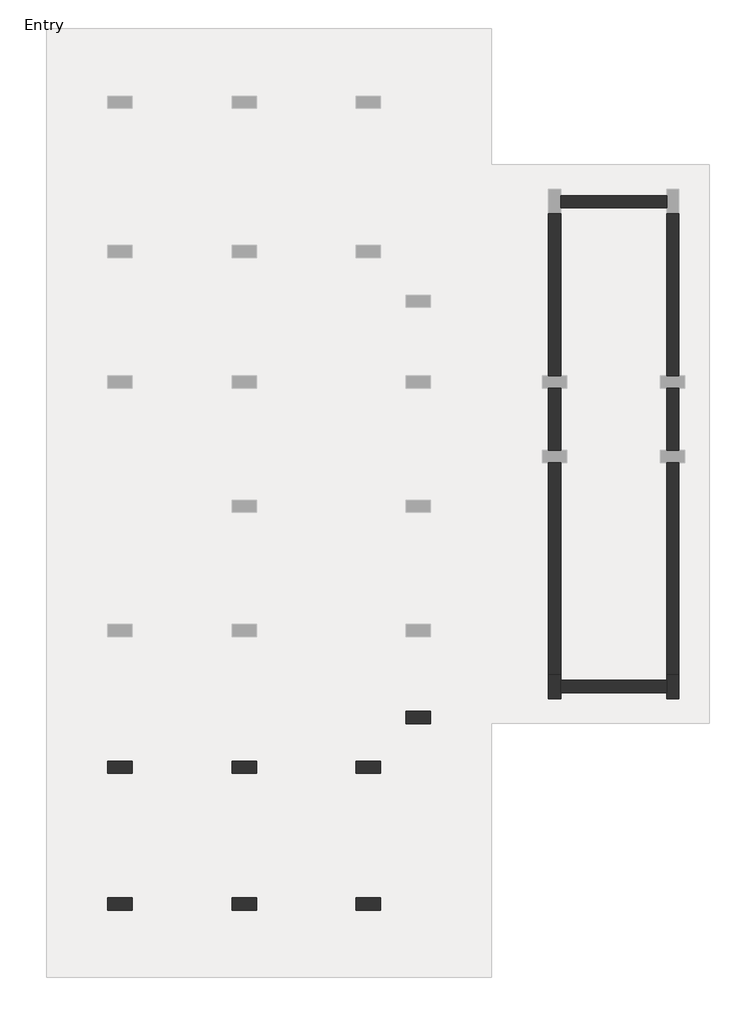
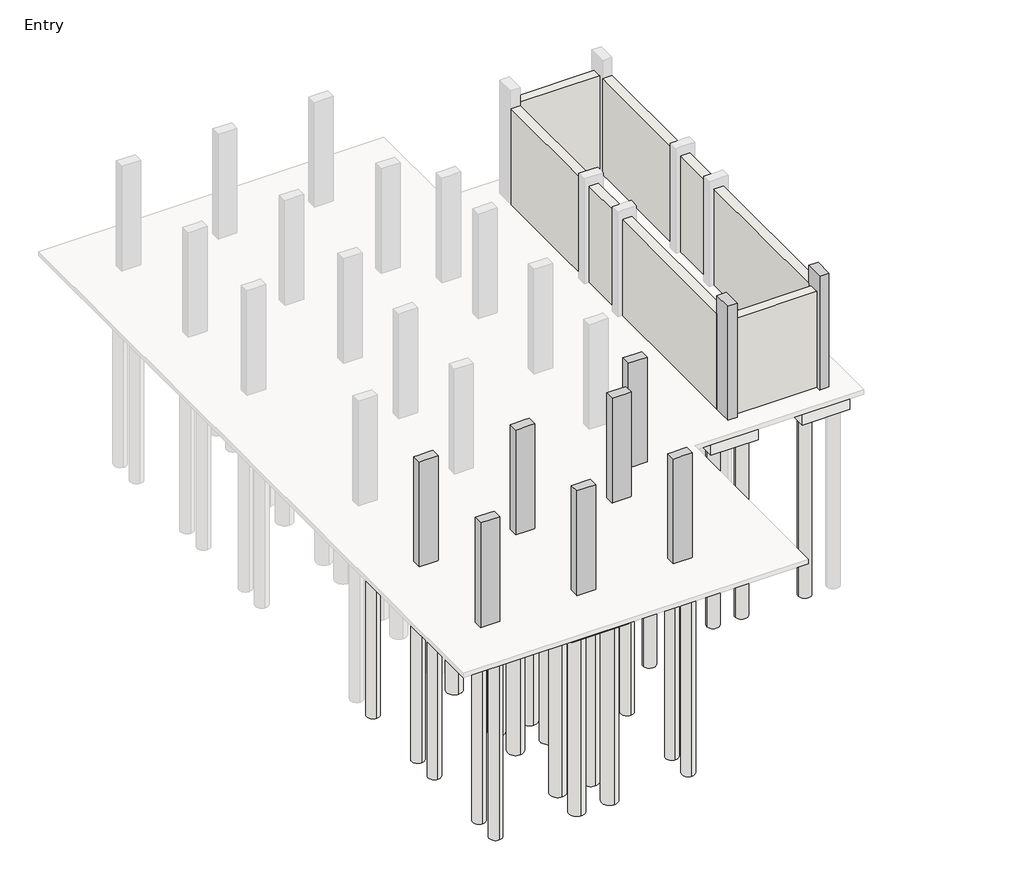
# One storey, part 1 of 3: 34 slabs, 9 columns, 8 walls, 1 footing.
"""IFC4 building model written with IfcOpenShell, lengths in millimetres."""

from ifc_helpers import new_model, si_unit, point, frame, frame_2d, origin, origin_with_axes, place, context, project, spatial, polyline, circle_curve, trimmed, segment, composite_curve, outline, extrude, faceted_brep, element, save

model = new_model("IFC4")

# Units and contexts
model_context = context("Model", 3, world=origin())
ifc_project = project(units=[si_unit("LENGTHUNIT", "METRE", prefix="MILLI")], contexts=[model_context])

# Site, building, storey
site = spatial("IfcSite", under=ifc_project)
building = spatial("IfcBuilding", under=site)
storey = spatial("IfcBuildingStorey", under=building, Name="Entry", Elevation=0.0)

# Columns
placement = place(None, origin())
element("IfcColumn", 1, ObjectType="M_Concrete-Rectangular-Column : 300 x 600mm", at=placement, inside=storey, context=model_context, shape_type="Brep", body=[
    faceted_brep([(-6997.5526929, -1780.40431, 0.0), (-6397.5526929, -1780.40431, 0.0), (-6397.5526929, -2080.40431, 0.0), (-6997.5526929, -2080.40431, 0.0), (-6997.5526929, -1780.40431, 3505.2), (-6847.5526929, -1780.40431, 3505.2), (-6547.5526929, -1780.40431, 3505.2), (-6397.5526929, -1780.40431, 3505.2), (-6997.5526929, -1780.40431, 2910.0), (-6397.5526929, -2080.40431, 3505.2), (-6697.5526929, -2080.40431, 3505.2), (-6997.5526929, -2080.40431, 3505.2), (-6997.5526929, -2080.40431, 2910.0)], [[[0, 1, 2, 3]], [[4, 5, 6, 7, 1, 0, 8]], [[7, 9, 2, 1]], [[9, 10, 11, 12, 3, 2]], [[11, 4, 8, 0, 3, 12]], [[4, 11, 10, 9, 7, 6, 5]]]),
])
element("IfcColumn", 2, ObjectType="M_Concrete-Rectangular-Column : 300 x 600mm", at=placement, inside=storey, context=model_context, shape_type="Brep", body=[
    faceted_brep([(-14312.7526929, -2999.60431, 0.0), (-13712.7526929, -2999.60431, 0.0), (-13712.7526929, -3299.60431, 0.0), (-14312.7526929, -3299.60431, 0.0), (-14312.7526929, -2999.60431, 3505.2), (-14162.7526929, -2999.60431, 3505.2), (-13862.7526929, -2999.60431, 3505.2), (-13712.7526929, -2999.60431, 3505.2), (-13712.7526929, -2999.60431, 2910.0), (-13712.7526929, -3299.60431, 3505.2), (-13712.7526929, -3299.60431, 2910.0), (-13862.7526929, -3299.60431, 3505.2), (-14162.7526929, -3299.60431, 3505.2), (-14312.7526929, -3299.60431, 3505.2)], [[[0, 1, 2, 3]], [[4, 5, 6, 7, 8, 1, 0]], [[7, 9, 10, 2, 1, 8]], [[9, 11, 12, 13, 3, 2, 10]], [[13, 4, 0, 3]], [[4, 13, 12, 11, 9, 7, 6, 5]]]),
])
element("IfcColumn", 3, ObjectType="M_Concrete-Rectangular-Column : 300 x 600mm", at=placement, inside=storey, context=model_context, shape_type="Brep", body=[
    faceted_brep([(-11264.7526929, -2999.60431, 0.0), (-10664.7526929, -2999.60431, 0.0), (-10664.7526929, -3299.60431, 0.0), (-11264.7526929, -3299.60431, 0.0), (-11264.7526929, -2999.60431, 3505.2), (-11114.7526929, -2999.60431, 3505.2), (-10814.7526929, -2999.60431, 3505.2), (-10664.7526929, -2999.60431, 3505.2), (-10664.7526929, -2999.60431, 2910.0), (-11264.7526929, -2999.60431, 2910.0), (-10664.7526929, -3299.60431, 3505.2), (-10664.7526929, -3299.60431, 2910.0), (-10814.7526929, -3299.60431, 3505.2), (-11114.7526929, -3299.60431, 3505.2), (-11264.7526929, -3299.60431, 3505.2), (-11264.7526929, -3299.60431, 2910.0)], [[[0, 1, 2, 3]], [[4, 5, 6, 7, 8, 1, 0, 9]], [[7, 10, 11, 2, 1, 8]], [[10, 12, 13, 14, 15, 3, 2, 11]], [[14, 4, 9, 0, 3, 15]], [[4, 14, 13, 12, 10, 7, 6, 5]]]),
])
element("IfcColumn", 4, ObjectType="M_Concrete-Rectangular-Column : 300 x 600mm", at=placement, inside=storey, context=model_context, shape_type="Brep", body=[
    faceted_brep([(-8216.7526929, -2999.60431, 0.0), (-7616.7526929, -2999.60431, 0.0), (-7616.7526929, -3299.60431, 0.0), (-8216.7526929, -3299.60431, 0.0), (-8216.7526929, -2999.60431, 3505.2), (-8066.7526929, -2999.60431, 3505.2), (-7766.7526929, -2999.60431, 3505.2), (-7616.7526929, -2999.60431, 3505.2), (-8216.7526929, -2999.60431, 2910.0), (-7616.7526929, -3299.60431, 3505.2), (-7766.7526929, -3299.60431, 3505.2), (-8066.7526929, -3299.60431, 3505.2), (-8216.7526929, -3299.60431, 3505.2), (-8216.7526929, -3299.60431, 2910.0)], [[[0, 1, 2, 3]], [[4, 5, 6, 7, 1, 0, 8]], [[7, 9, 2, 1]], [[9, 10, 11, 12, 13, 3, 2]], [[12, 4, 8, 0, 3, 13]], [[4, 12, 11, 10, 9, 7, 6, 5]]]),
])
element("IfcColumn", 5, ObjectType="M_Concrete-Rectangular-Column : 300 x 600mm", at=placement, inside=storey, context=model_context, shape_type="Brep", body=[
    faceted_brep([(-14312.7526929, -6352.40431, 0.0), (-13712.7526929, -6352.40431, 0.0), (-13712.7526929, -6652.40431, 0.0), (-14312.7526929, -6652.40431, 0.0), (-14312.7526929, -6352.40431, 3505.2), (-14162.7526929, -6352.40431, 3505.2), (-13862.7526929, -6352.40431, 3505.2), (-13712.7526929, -6352.40431, 3505.2), (-13712.7526929, -6352.40431, 2910.0), (-13712.7526929, -6652.40431, 3505.2), (-13712.7526929, -6652.40431, 2910.0), (-14012.7526929, -6652.40431, 3505.2), (-14312.7526929, -6652.40431, 3505.2)], [[[0, 1, 2, 3]], [[4, 5, 6, 7, 8, 1, 0]], [[7, 9, 10, 2, 1, 8]], [[9, 11, 12, 3, 2, 10]], [[12, 4, 0, 3]], [[4, 12, 11, 9, 7, 6, 5]]]),
])
element("IfcColumn", 6, ObjectType="M_Concrete-Rectangular-Column : 300 x 600mm", at=placement, inside=storey, context=model_context, shape_type="Brep", body=[
    faceted_brep([(-11264.7526929, -6352.40431, 0.0), (-10664.7526929, -6352.40431, 0.0), (-10664.7526929, -6652.40431, 0.0), (-11264.7526929, -6652.40431, 0.0), (-11264.7526929, -6352.40431, 3505.2), (-10664.7526929, -6352.40431, 3505.2), (-10664.7526929, -6352.40431, 2910.0), (-11264.7526929, -6352.40431, 2910.0), (-10664.7526929, -6652.40431, 3505.2), (-10664.7526929, -6652.40431, 2910.0), (-11264.7526929, -6652.40431, 3505.2), (-11264.7526929, -6652.40431, 2910.0)], [[[0, 1, 2, 3]], [[4, 5, 6, 1, 0, 7]], [[5, 8, 9, 2, 1, 6]], [[8, 10, 11, 3, 2, 9]], [[10, 4, 7, 0, 3, 11]], [[4, 10, 8, 5]]]),
])
element("IfcColumn", 7, ObjectType="M_Concrete-Rectangular-Column : 300 x 600mm", at=placement, inside=storey, context=model_context, shape_type="Brep", body=[
    faceted_brep([(-8216.7526929, -6352.40431, 0.0), (-7616.7526929, -6352.40431, 0.0), (-7616.7526929, -6652.40431, 0.0), (-8216.7526929, -6652.40431, 0.0), (-8216.7526929, -6352.40431, 3505.2), (-8066.7526929, -6352.40431, 3505.2), (-7766.7526929, -6352.40431, 3505.2), (-7616.7526929, -6352.40431, 3505.2), (-8216.7526929, -6352.40431, 2910.0), (-7616.7526929, -6652.40431, 3505.2), (-7916.7526929, -6652.40431, 3505.2), (-8216.7526929, -6652.40431, 3505.2), (-8216.7526929, -6652.40431, 2910.0)], [[[0, 1, 2, 3]], [[4, 5, 6, 7, 1, 0, 8]], [[7, 9, 2, 1]], [[9, 10, 11, 12, 3, 2]], [[11, 4, 8, 0, 3, 12]], [[4, 11, 10, 9, 7, 6, 5]]]),
])
element("IfcColumn", 8, ObjectType="M_Concrete-Rectangular-Column : 300 x 600mm", at=placement, inside=storey, context=model_context, shape_type="Brep", body=[
    faceted_brep([(-3494.7526929, -1468.40431, 0.0), (-3494.7526929, -868.40431, 0.0), (-3194.7526929, -868.40431, 0.0), (-3194.7526929, -1018.40431, 0.0), (-3194.7526929, -1318.40431, 0.0), (-3194.7526929, -1468.40431, 0.0), (-3494.7526929, -1468.40431, 3810.0), (-3494.7526929, -868.40431, 3810.0), (-3494.7526929, -868.40431, 3210.0), (-3194.7526929, -868.40431, 3810.0), (-3194.7526929, -868.40431, 3210.0), (-3194.7526929, -1468.40431, 3810.0)], [[[0, 1, 2, 3, 4, 5]], [[6, 7, 8, 1, 0]], [[7, 9, 10, 2, 1, 8]], [[9, 11, 5, 4, 3, 2, 10]], [[11, 6, 0, 5]], [[6, 11, 9, 7]]]),
])
element("IfcColumn", 9, ObjectType="M_Concrete-Rectangular-Column : 300 x 600mm", at=placement, inside=storey, context=model_context, shape_type="Brep", body=[
    faceted_brep([(-599.1526929, -1468.40431, 0.0), (-599.1526929, -1318.40431, 0.0), (-599.1526929, -1018.40431, 0.0), (-599.1526929, -868.40431, 0.0), (-299.1526929, -868.40431, 0.0), (-299.1526929, -1468.40431, 0.0), (-599.1526929, -1468.40431, 3810.0), (-599.1526929, -868.40431, 3810.0), (-599.1526929, -868.40431, 3210.0), (-299.1526929, -868.40431, 3810.0), (-299.1526929, -868.40431, 3210.0), (-299.1526929, -1468.40431, 3810.0)], [[[0, 1, 2, 3, 4, 5]], [[6, 7, 8, 3, 2, 1, 0]], [[7, 9, 10, 4, 3, 8]], [[9, 11, 5, 4, 10]], [[11, 6, 0, 5]], [[6, 11, 9, 7]]]),
])

# Footing
element("IfcFooting", 10, ObjectType="Bearing Footing - 900 x 300", at=placement, inside=storey, context=model_context, shape_type="Brep", body=[
    faceted_brep([(-599.1526929, -1618.40431, -300.0), (-599.1526929, -1568.40431, -300.0), (-599.1526929, -1568.40431, -150.0), (-599.1526929, -1618.40431, -150.0), (-599.1526929, -768.40431, -300.0), (-599.1526929, -718.40431, -300.0), (-599.1526929, -718.40431, -150.0), (-599.1526929, -768.40431, -150.0), (-3194.7526929, -1568.40431, -300.0), (-3194.7526929, -1618.40431, -300.0), (-3194.7526929, -1618.40431, -150.0), (-3194.7526929, -1568.40431, -150.0), (-2594.7526929, -1568.40431, -300.0), (-2594.7526929, -768.40431, -300.0), (-2894.7526929, -768.40431, -300.0), (-2894.7526929, -718.40431, -300.0), (-899.1526929, -718.40431, -300.0), (-1199.1526929, -768.40431, -300.0), (-1199.1526929, -1568.40431, -300.0), (-2894.7526929, -718.40431, -150.0), (-899.1526929, -718.40431, -150.0), (-2594.7526929, -1568.40431, -150.0), (-2594.7526929, -768.40431, -150.0), (-2894.7526929, -768.40431, -150.0), (-1199.1526929, -1568.40431, -150.0), (-1199.1526929, -768.40431, -150.0)], [[[0, 1, 2, 3]], [[4, 5, 6, 7]], [[8, 9, 10, 11]], [[9, 0, 3, 10]], [[0, 9, 8, 12, 13, 14, 15, 16, 5, 4, 17, 18, 1]], [[5, 16, 15, 19, 20, 6]], [[12, 8, 11, 21]], [[13, 12, 21, 22]], [[14, 13, 22, 23]], [[1, 18, 24, 2]], [[17, 4, 7, 25]], [[18, 17, 25, 24]], [[15, 14, 23, 19]], [[3, 2, 24, 25, 7, 6, 20, 19, 23, 22, 21, 11, 10]]]),
])

# Slabs
element("IfcSlab", 11, ObjectType="M_Pile Cap-2 Pile : 800 x 1500 x 900mm", at=placement, inside=storey, context=model_context, shape_type="SweptSolid", body=[
    extrude(outline(polyline([(-14412.7526929, -2399.60431), (-13612.7526929, -2399.60431), (-13612.7526929, -3899.60431), (-14412.7526929, -3899.60431), (-14412.7526929, -2399.60431)])), frame((0.0, 0.0, -900.0), z_axis=(0.0, 0.0, 1.0), x_axis=(1.0, 0.0, 0.0)), (0.0, 0.0, 1.0), 750.0),
])
element("IfcSlab", 12, ObjectType="M_Pile Cap-2 Pile : 800 x 1500 x 900mm", at=placement, inside=storey, context=model_context, shape_type="SweptSolid", body=[
    extrude(outline(polyline([(-14412.7526929, -5752.40431), (-13612.7526929, -5752.40431), (-13612.7526929, -7252.40431), (-14412.7526929, -7252.40431), (-14412.7526929, -5752.40431)])), frame((0.0, 0.0, -900.0), z_axis=(0.0, 0.0, 1.0), x_axis=(1.0, 0.0, 0.0)), (0.0, 0.0, 1.0), 750.0),
])
element("IfcSlab", 13, ObjectType="M_Pile Cap-2 Pile : 800 x 1500 x 900mm", at=placement, inside=storey, context=model_context, shape_type="SweptSolid", body=[
    extrude(outline(polyline([(-8316.7526929, -2399.60431), (-7516.7526929, -2399.60431), (-7516.7526929, -3899.60431), (-8316.7526929, -3899.60431), (-8316.7526929, -2399.60431)])), frame((0.0, 0.0, -900.0), z_axis=(0.0, 0.0, 1.0), x_axis=(1.0, 0.0, 0.0)), (0.0, 0.0, 1.0), 750.0),
])
element("IfcSlab", 14, ObjectType="M_Pile Cap-2 Pile : 800 x 1500 x 900mm", at=placement, inside=storey, context=model_context, shape_type="SweptSolid", body=[
    extrude(outline(polyline([(-8316.7526929, -5752.40431), (-7516.7526929, -5752.40431), (-7516.7526929, -7252.40431), (-8316.7526929, -7252.40431), (-8316.7526929, -5752.40431)])), frame((0.0, 0.0, -900.0), z_axis=(0.0, 0.0, 1.0), x_axis=(1.0, 0.0, 0.0)), (0.0, 0.0, 1.0), 750.0),
])
element("IfcSlab", 15, ObjectType="M_Pile Cap-2 Pile : 800 x 1500 x 900mm", at=placement, inside=storey, context=model_context, shape_type="Brep", body=[
    faceted_brep([(-4094.7526929, -1568.40431, -900.0), (-4094.7526929, -768.40431, -900.0), (-2594.7526929, -768.40431, -900.0), (-2594.7526929, -1568.40431, -900.0), (-2594.7526929, -1568.40431, -300.0), (-2594.7526929, -1568.40431, -150.0), (-3194.7526929, -1568.40431, -150.0), (-4094.7526929, -1568.40431, -150.0), (-2594.7526929, -768.40431, -300.0), (-2594.7526929, -768.40431, -150.0), (-4094.7526929, -768.40431, -150.0), (-3794.7526929, -768.40431, -150.0), (-2894.7526929, -768.40431, -150.0)], [[[0, 1, 2, 3]], [[0, 3, 4, 5, 6, 7]], [[3, 2, 8, 9, 5, 4]], [[2, 1, 10, 11, 12, 9, 8]], [[1, 0, 7, 10]], [[7, 6, 5, 9, 12, 11, 10]]]),
])
element("IfcSlab", 16, ObjectType="M_Pile Cap-2 Pile : 800 x 1500 x 900mm", at=placement, inside=storey, context=model_context, shape_type="Brep", body=[
    faceted_brep([(-1199.1526929, -1568.40431, -900.0), (-1199.1526929, -768.40431, -900.0), (300.8473071, -768.40431, -900.0), (300.8473071, -1568.40431, -900.0), (300.8473071, -1568.40431, -150.0), (-599.1526929, -1568.40431, -150.0), (-1199.1526929, -1568.40431, -150.0), (-1199.1526929, -1568.40431, -300.0), (300.8473071, -768.40431, -150.0), (-1199.1526929, -768.40431, -300.0), (-1199.1526929, -768.40431, -150.0), (-599.1526929, -768.40431, -150.0), (0.8473071, -768.40431, -150.0)], [[[0, 1, 2, 3]], [[0, 3, 4, 5, 6, 7]], [[3, 2, 8, 4]], [[2, 1, 9, 10, 11, 12, 8]], [[1, 0, 7, 6, 10, 9]], [[6, 5, 4, 8, 12, 11, 10]]]),
])
element("IfcSlab", 17, ObjectType="M_Pile Cap-2 Pile : 800 x 1500 x 900mm", at=placement, inside=storey, context=model_context, shape_type="SweptSolid", body=[
    extrude(outline(polyline([(-5947.5526929, -1530.40431), (-5947.5526929, -2330.40431), (-7447.5526929, -2330.40431), (-7447.5526929, -1530.40431), (-5947.5526929, -1530.40431)])), frame((0.0, 0.0, -900.0), z_axis=(0.0, 0.0, 1.0), x_axis=(1.0, 0.0, 0.0)), (0.0, 0.0, 1.0), 750.0),
])
element("IfcSlab", 18, ObjectType="M_Pile Cap-4 Pile : 1800 x 1800 x 900mm", at=placement, inside=storey, context=model_context, shape_type="SweptSolid", body=[
    extrude(outline(polyline([(-11864.7526929, -2249.60431), (-10064.7526929, -2249.60431), (-10064.7526929, -4049.60431), (-11864.7526929, -4049.60431), (-11864.7526929, -2249.60431)])), frame((0.0, 0.0, -900.0), z_axis=(0.0, 0.0, 1.0), x_axis=(1.0, 0.0, 0.0)), (0.0, 0.0, 1.0), 750.0),
])
element("IfcSlab", 19, ObjectType="M_Pile Cap-4 Pile : 1800 x 1800 x 900mm", at=placement, inside=storey, context=model_context, shape_type="SweptSolid", body=[
    extrude(outline(polyline([(-11864.7526929, -5602.40431), (-10064.7526929, -5602.40431), (-10064.7526929, -7402.40431), (-11864.7526929, -7402.40431), (-11864.7526929, -5602.40431)])), frame((0.0, 0.0, -900.0), z_axis=(0.0, 0.0, 1.0), x_axis=(1.0, 0.0, 0.0)), (0.0, 0.0, 1.0), 750.0),
])
element("IfcSlab", 20, ObjectType="M_Pile-Steel Pipe : 400mm Diameter", at=placement, inside=storey, context=model_context, shape_type="SweptSolid", body=[
    extrude(outline(composite_curve([segment(trimmed(circle_curve(frame_2d((-6697.5526929, -246.80431)), 200.0), [point((-6697.5526929, -446.80431))], [point((-6697.5526929, -46.80431))], False, "CARTESIAN"), True, "CONTINUOUS"), segment(trimmed(circle_curve(frame_2d((-6697.5526929, -246.80431)), 200.0), [point((-6697.5526929, -46.80431))], [point((-6697.5526929, -446.80431))], False, "CARTESIAN"), True, "CONTINUOUS")], self_intersect=False)), frame((0.0, 0.0, -6900.0), z_axis=(0.0, 0.0, 1.0), x_axis=(1.0, 0.0, 0.0)), (0.0, 0.0, 1.0), 6000.0),
])
element("IfcSlab", 21, ObjectType="M_Pile-Steel Pipe : 400mm Diameter", at=placement, inside=storey, context=model_context, shape_type="SweptSolid", body=[
    extrude(outline(composite_curve([segment(trimmed(circle_curve(frame_2d((-14012.7526929, -246.80431)), 200.0), [point((-14012.7526929, -446.80431))], [point((-14012.7526929, -46.80431))], False, "CARTESIAN"), True, "CONTINUOUS"), segment(trimmed(circle_curve(frame_2d((-14012.7526929, -246.80431)), 200.0), [point((-14012.7526929, -46.80431))], [point((-14012.7526929, -446.80431))], False, "CARTESIAN"), True, "CONTINUOUS")], self_intersect=False)), frame((0.0, 0.0, -6900.0), z_axis=(0.0, 0.0, 1.0), x_axis=(1.0, 0.0, 0.0)), (0.0, 0.0, 1.0), 6000.0),
])
element("IfcSlab", 22, ObjectType="M_Pile-Steel Pipe : 400mm Diameter", at=placement, inside=storey, context=model_context, shape_type="SweptSolid", body=[
    extrude(outline(composite_curve([segment(trimmed(circle_curve(frame_2d((-14012.7526929, -3599.60431)), 200.0), [point((-14012.7526929, -3799.60431))], [point((-14012.7526929, -3399.60431))], False, "CARTESIAN"), True, "CONTINUOUS"), segment(trimmed(circle_curve(frame_2d((-14012.7526929, -3599.60431)), 200.0), [point((-14012.7526929, -3399.60431))], [point((-14012.7526929, -3799.60431))], False, "CARTESIAN"), True, "CONTINUOUS")], self_intersect=False)), frame((0.0, 0.0, -6900.0), z_axis=(0.0, 0.0, 1.0), x_axis=(1.0, 0.0, 0.0)), (0.0, 0.0, 1.0), 6000.0),
])
element("IfcSlab", 23, ObjectType="M_Pile-Steel Pipe : 400mm Diameter", at=placement, inside=storey, context=model_context, shape_type="SweptSolid", body=[
    extrude(outline(composite_curve([segment(trimmed(circle_curve(frame_2d((-14012.7526929, -2699.60431)), 200.0), [point((-14012.7526929, -2899.60431))], [point((-14012.7526929, -2499.60431))], False, "CARTESIAN"), True, "CONTINUOUS"), segment(trimmed(circle_curve(frame_2d((-14012.7526929, -2699.60431)), 200.0), [point((-14012.7526929, -2499.60431))], [point((-14012.7526929, -2899.60431))], False, "CARTESIAN"), True, "CONTINUOUS")], self_intersect=False)), frame((0.0, 0.0, -6900.0), z_axis=(0.0, 0.0, 1.0), x_axis=(1.0, 0.0, 0.0)), (0.0, 0.0, 1.0), 6000.0),
])
element("IfcSlab", 24, ObjectType="M_Pile-Steel Pipe : 400mm Diameter", at=placement, inside=storey, context=model_context, shape_type="SweptSolid", body=[
    extrude(outline(composite_curve([segment(trimmed(circle_curve(frame_2d((-14012.7526929, -6952.40431)), 200.0), [point((-14012.7526929, -7152.40431))], [point((-14012.7526929, -6752.40431))], False, "CARTESIAN"), True, "CONTINUOUS"), segment(trimmed(circle_curve(frame_2d((-14012.7526929, -6952.40431)), 200.0), [point((-14012.7526929, -6752.40431))], [point((-14012.7526929, -7152.40431))], False, "CARTESIAN"), True, "CONTINUOUS")], self_intersect=False)), frame((0.0, 0.0, -6900.0), z_axis=(0.0, 0.0, 1.0), x_axis=(1.0, 0.0, 0.0)), (0.0, 0.0, 1.0), 6000.0),
])
element("IfcSlab", 25, ObjectType="M_Pile-Steel Pipe : 400mm Diameter", at=placement, inside=storey, context=model_context, shape_type="SweptSolid", body=[
    extrude(outline(composite_curve([segment(trimmed(circle_curve(frame_2d((-14012.7526929, -6052.40431)), 200.0), [point((-14012.7526929, -6252.40431))], [point((-14012.7526929, -5852.40431))], False, "CARTESIAN"), True, "CONTINUOUS"), segment(trimmed(circle_curve(frame_2d((-14012.7526929, -6052.40431)), 200.0), [point((-14012.7526929, -5852.40431))], [point((-14012.7526929, -6252.40431))], False, "CARTESIAN"), True, "CONTINUOUS")], self_intersect=False)), frame((0.0, 0.0, -6900.0), z_axis=(0.0, 0.0, 1.0), x_axis=(1.0, 0.0, 0.0)), (0.0, 0.0, 1.0), 6000.0),
])
element("IfcSlab", 26, ObjectType="M_Pile-Steel Pipe : 400mm Diameter", at=placement, inside=storey, context=model_context, shape_type="SweptSolid", body=[
    extrude(outline(composite_curve([segment(trimmed(circle_curve(frame_2d((-7916.7526929, -3599.60431)), 200.0), [point((-7916.7526929, -3799.60431))], [point((-7916.7526929, -3399.60431))], False, "CARTESIAN"), True, "CONTINUOUS"), segment(trimmed(circle_curve(frame_2d((-7916.7526929, -3599.60431)), 200.0), [point((-7916.7526929, -3399.60431))], [point((-7916.7526929, -3799.60431))], False, "CARTESIAN"), True, "CONTINUOUS")], self_intersect=False)), frame((0.0, 0.0, -6900.0), z_axis=(0.0, 0.0, 1.0), x_axis=(1.0, 0.0, 0.0)), (0.0, 0.0, 1.0), 6000.0),
])
element("IfcSlab", 27, ObjectType="M_Pile-Steel Pipe : 400mm Diameter", at=placement, inside=storey, context=model_context, shape_type="SweptSolid", body=[
    extrude(outline(composite_curve([segment(trimmed(circle_curve(frame_2d((-7916.7526929, -2699.60431)), 200.0), [point((-7916.7526929, -2899.60431))], [point((-7916.7526929, -2499.60431))], False, "CARTESIAN"), True, "CONTINUOUS"), segment(trimmed(circle_curve(frame_2d((-7916.7526929, -2699.60431)), 200.0), [point((-7916.7526929, -2499.60431))], [point((-7916.7526929, -2899.60431))], False, "CARTESIAN"), True, "CONTINUOUS")], self_intersect=False)), frame((0.0, 0.0, -6900.0), z_axis=(0.0, 0.0, 1.0), x_axis=(1.0, 0.0, 0.0)), (0.0, 0.0, 1.0), 6000.0),
])
element("IfcSlab", 28, ObjectType="M_Pile-Steel Pipe : 400mm Diameter", at=placement, inside=storey, context=model_context, shape_type="SweptSolid", body=[
    extrude(outline(composite_curve([segment(trimmed(circle_curve(frame_2d((-7916.7526929, -6952.40431)), 200.0), [point((-7916.7526929, -7152.40431))], [point((-7916.7526929, -6752.40431))], False, "CARTESIAN"), True, "CONTINUOUS"), segment(trimmed(circle_curve(frame_2d((-7916.7526929, -6952.40431)), 200.0), [point((-7916.7526929, -6752.40431))], [point((-7916.7526929, -7152.40431))], False, "CARTESIAN"), True, "CONTINUOUS")], self_intersect=False)), frame((0.0, 0.0, -6900.0), z_axis=(0.0, 0.0, 1.0), x_axis=(1.0, 0.0, 0.0)), (0.0, 0.0, 1.0), 6000.0),
])
element("IfcSlab", 29, ObjectType="M_Pile-Steel Pipe : 400mm Diameter", at=placement, inside=storey, context=model_context, shape_type="SweptSolid", body=[
    extrude(outline(composite_curve([segment(trimmed(circle_curve(frame_2d((-7916.7526929, -6052.40431)), 200.0), [point((-7916.7526929, -6252.40431))], [point((-7916.7526929, -5852.40431))], False, "CARTESIAN"), True, "CONTINUOUS"), segment(trimmed(circle_curve(frame_2d((-7916.7526929, -6052.40431)), 200.0), [point((-7916.7526929, -5852.40431))], [point((-7916.7526929, -6252.40431))], False, "CARTESIAN"), True, "CONTINUOUS")], self_intersect=False)), frame((0.0, 0.0, -6900.0), z_axis=(0.0, 0.0, 1.0), x_axis=(1.0, 0.0, 0.0)), (0.0, 0.0, 1.0), 6000.0),
])
element("IfcSlab", 30, ObjectType="M_Pile-Steel Pipe : 400mm Diameter", at=placement, inside=storey, context=model_context, shape_type="SweptSolid", body=[
    extrude(outline(composite_curve([segment(trimmed(circle_curve(frame_2d((-2894.7526929, -1168.40431)), 200.0), [point((-2694.7526929, -1168.40431))], [point((-3094.7526929, -1168.40431))], False, "CARTESIAN"), True, "CONTINUOUS"), segment(trimmed(circle_curve(frame_2d((-2894.7526929, -1168.40431)), 200.0), [point((-3094.7526929, -1168.40431))], [point((-2694.7526929, -1168.40431))], False, "CARTESIAN"), True, "CONTINUOUS")], self_intersect=False)), frame((0.0, 0.0, -6900.0), z_axis=(0.0, 0.0, 1.0), x_axis=(1.0, 0.0, 0.0)), (0.0, 0.0, 1.0), 6000.0),
])
element("IfcSlab", 31, ObjectType="M_Pile-Steel Pipe : 400mm Diameter", at=placement, inside=storey, context=model_context, shape_type="SweptSolid", body=[
    extrude(outline(composite_curve([segment(trimmed(circle_curve(frame_2d((-3794.7526929, -1168.40431)), 200.0), [point((-3594.7526929, -1168.40431))], [point((-3994.7526929, -1168.40431))], False, "CARTESIAN"), True, "CONTINUOUS"), segment(trimmed(circle_curve(frame_2d((-3794.7526929, -1168.40431)), 200.0), [point((-3994.7526929, -1168.40431))], [point((-3594.7526929, -1168.40431))], False, "CARTESIAN"), True, "CONTINUOUS")], self_intersect=False)), frame((0.0, 0.0, -6900.0), z_axis=(0.0, 0.0, 1.0), x_axis=(1.0, 0.0, 0.0)), (0.0, 0.0, 1.0), 6000.0),
])
element("IfcSlab", 32, ObjectType="M_Pile-Steel Pipe : 400mm Diameter", at=placement, inside=storey, context=model_context, shape_type="SweptSolid", body=[
    extrude(outline(composite_curve([segment(trimmed(circle_curve(frame_2d((-899.1526929, -1168.40431)), 200.0), [point((-699.1526929, -1168.40431))], [point((-1099.1526929, -1168.40431))], False, "CARTESIAN"), True, "CONTINUOUS"), segment(trimmed(circle_curve(frame_2d((-899.1526929, -1168.40431)), 200.0), [point((-1099.1526929, -1168.40431))], [point((-699.1526929, -1168.40431))], False, "CARTESIAN"), True, "CONTINUOUS")], self_intersect=False)), frame((0.0, 0.0, -6900.0), z_axis=(0.0, 0.0, 1.0), x_axis=(1.0, 0.0, 0.0)), (0.0, 0.0, 1.0), 6000.0),
])
element("IfcSlab", 33, ObjectType="M_Pile-Steel Pipe : 400mm Diameter", at=placement, inside=storey, context=model_context, shape_type="SweptSolid", body=[
    extrude(outline(composite_curve([segment(trimmed(circle_curve(frame_2d((-7147.5526929, -1930.40431)), 200.0), [point((-7347.5526929, -1930.40431))], [point((-6947.5526929, -1930.40431))], False, "CARTESIAN"), True, "CONTINUOUS"), segment(trimmed(circle_curve(frame_2d((-7147.5526929, -1930.40431)), 200.0), [point((-6947.5526929, -1930.40431))], [point((-7347.5526929, -1930.40431))], False, "CARTESIAN"), True, "CONTINUOUS")], self_intersect=False)), frame((0.0, 0.0, -6900.0), z_axis=(0.0, 0.0, 1.0), x_axis=(1.0, 0.0, 0.0)), (0.0, 0.0, 1.0), 6000.0),
])
element("IfcSlab", 34, ObjectType="M_Pile-Steel Pipe : 400mm Diameter", at=placement, inside=storey, context=model_context, shape_type="SweptSolid", body=[
    extrude(outline(composite_curve([segment(trimmed(circle_curve(frame_2d((-6247.5526929, -1930.40431)), 200.0), [point((-6447.5526929, -1930.40431))], [point((-6047.5526929, -1930.40431))], False, "CARTESIAN"), True, "CONTINUOUS"), segment(trimmed(circle_curve(frame_2d((-6247.5526929, -1930.40431)), 200.0), [point((-6047.5526929, -1930.40431))], [point((-6447.5526929, -1930.40431))], False, "CARTESIAN"), True, "CONTINUOUS")], self_intersect=False)), frame((0.0, 0.0, -6900.0), z_axis=(0.0, 0.0, 1.0), x_axis=(1.0, 0.0, 0.0)), (0.0, 0.0, 1.0), 6000.0),
])
element("IfcSlab", 35, ObjectType="M_Pile-Steel Pipe : 500mm Diameter", at=placement, inside=storey, context=model_context, shape_type="SweptSolid", body=[
    extrude(outline(composite_curve([segment(trimmed(circle_curve(frame_2d((-10444.7526929, -316.80431)), 250.0), [point((-10444.7526929, -566.80431))], [point((-10444.7526929, -66.80431))], False, "CARTESIAN"), True, "CONTINUOUS"), segment(trimmed(circle_curve(frame_2d((-10444.7526929, -316.80431)), 250.0), [point((-10444.7526929, -66.80431))], [point((-10444.7526929, -566.80431))], False, "CARTESIAN"), True, "CONTINUOUS")], self_intersect=False)), frame((0.0, 0.0, -6900.0), z_axis=(0.0, 0.0, 1.0), x_axis=(1.0, 0.0, 0.0)), (0.0, 0.0, 1.0), 6000.0),
])
element("IfcSlab", 36, ObjectType="M_Pile-Steel Pipe : 500mm Diameter", at=placement, inside=storey, context=model_context, shape_type="SweptSolid", body=[
    extrude(outline(composite_curve([segment(trimmed(circle_curve(frame_2d((-11484.7526929, -316.80431)), 250.0), [point((-11484.7526929, -566.80431))], [point((-11484.7526929, -66.80431))], False, "CARTESIAN"), True, "CONTINUOUS"), segment(trimmed(circle_curve(frame_2d((-11484.7526929, -316.80431)), 250.0), [point((-11484.7526929, -66.80431))], [point((-11484.7526929, -566.80431))], False, "CARTESIAN"), True, "CONTINUOUS")], self_intersect=False)), frame((0.0, 0.0, -6900.0), z_axis=(0.0, 0.0, 1.0), x_axis=(1.0, 0.0, 0.0)), (0.0, 0.0, 1.0), 6000.0),
])
element("IfcSlab", 37, ObjectType="M_Pile-Steel Pipe : 500mm Diameter", at=placement, inside=storey, context=model_context, shape_type="SweptSolid", body=[
    extrude(outline(composite_curve([segment(trimmed(circle_curve(frame_2d((-10444.7526929, -3669.60431)), 250.0), [point((-10444.7526929, -3919.60431))], [point((-10444.7526929, -3419.60431))], False, "CARTESIAN"), True, "CONTINUOUS"), segment(trimmed(circle_curve(frame_2d((-10444.7526929, -3669.60431)), 250.0), [point((-10444.7526929, -3419.60431))], [point((-10444.7526929, -3919.60431))], False, "CARTESIAN"), True, "CONTINUOUS")], self_intersect=False)), frame((0.0, 0.0, -6900.0), z_axis=(0.0, 0.0, 1.0), x_axis=(1.0, 0.0, 0.0)), (0.0, 0.0, 1.0), 6000.0),
])
element("IfcSlab", 38, ObjectType="M_Pile-Steel Pipe : 500mm Diameter", at=placement, inside=storey, context=model_context, shape_type="SweptSolid", body=[
    extrude(outline(composite_curve([segment(trimmed(circle_curve(frame_2d((-10444.7526929, -2629.60431)), 250.0), [point((-10444.7526929, -2879.60431))], [point((-10444.7526929, -2379.60431))], False, "CARTESIAN"), True, "CONTINUOUS"), segment(trimmed(circle_curve(frame_2d((-10444.7526929, -2629.60431)), 250.0), [point((-10444.7526929, -2379.60431))], [point((-10444.7526929, -2879.60431))], False, "CARTESIAN"), True, "CONTINUOUS")], self_intersect=False)), frame((0.0, 0.0, -6900.0), z_axis=(0.0, 0.0, 1.0), x_axis=(1.0, 0.0, 0.0)), (0.0, 0.0, 1.0), 6000.0),
])
element("IfcSlab", 39, ObjectType="M_Pile-Steel Pipe : 500mm Diameter", at=placement, inside=storey, context=model_context, shape_type="SweptSolid", body=[
    extrude(outline(composite_curve([segment(trimmed(circle_curve(frame_2d((-11484.7526929, -2629.60431)), 250.0), [point((-11484.7526929, -2879.60431))], [point((-11484.7526929, -2379.60431))], False, "CARTESIAN"), True, "CONTINUOUS"), segment(trimmed(circle_curve(frame_2d((-11484.7526929, -2629.60431)), 250.0), [point((-11484.7526929, -2379.60431))], [point((-11484.7526929, -2879.60431))], False, "CARTESIAN"), True, "CONTINUOUS")], self_intersect=False)), frame((0.0, 0.0, -6900.0), z_axis=(0.0, 0.0, 1.0), x_axis=(1.0, 0.0, 0.0)), (0.0, 0.0, 1.0), 6000.0),
])
element("IfcSlab", 40, ObjectType="M_Pile-Steel Pipe : 500mm Diameter", at=placement, inside=storey, context=model_context, shape_type="SweptSolid", body=[
    extrude(outline(composite_curve([segment(trimmed(circle_curve(frame_2d((-11484.7526929, -3669.60431)), 250.0), [point((-11484.7526929, -3919.60431))], [point((-11484.7526929, -3419.60431))], False, "CARTESIAN"), True, "CONTINUOUS"), segment(trimmed(circle_curve(frame_2d((-11484.7526929, -3669.60431)), 250.0), [point((-11484.7526929, -3419.60431))], [point((-11484.7526929, -3919.60431))], False, "CARTESIAN"), True, "CONTINUOUS")], self_intersect=False)), frame((0.0, 0.0, -6900.0), z_axis=(0.0, 0.0, 1.0), x_axis=(1.0, 0.0, 0.0)), (0.0, 0.0, 1.0), 6000.0),
])
element("IfcSlab", 41, ObjectType="M_Pile-Steel Pipe : 500mm Diameter", at=placement, inside=storey, context=model_context, shape_type="SweptSolid", body=[
    extrude(outline(composite_curve([segment(trimmed(circle_curve(frame_2d((-10444.7526929, -7022.40431)), 250.0), [point((-10444.7526929, -7272.40431))], [point((-10444.7526929, -6772.40431))], False, "CARTESIAN"), True, "CONTINUOUS"), segment(trimmed(circle_curve(frame_2d((-10444.7526929, -7022.40431)), 250.0), [point((-10444.7526929, -6772.40431))], [point((-10444.7526929, -7272.40431))], False, "CARTESIAN"), True, "CONTINUOUS")], self_intersect=False)), frame((0.0, 0.0, -6900.0), z_axis=(0.0, 0.0, 1.0), x_axis=(1.0, 0.0, 0.0)), (0.0, 0.0, 1.0), 6000.0),
])
element("IfcSlab", 42, ObjectType="M_Pile-Steel Pipe : 500mm Diameter", at=placement, inside=storey, context=model_context, shape_type="SweptSolid", body=[
    extrude(outline(composite_curve([segment(trimmed(circle_curve(frame_2d((-10444.7526929, -5982.40431)), 250.0), [point((-10444.7526929, -6232.40431))], [point((-10444.7526929, -5732.40431))], False, "CARTESIAN"), True, "CONTINUOUS"), segment(trimmed(circle_curve(frame_2d((-10444.7526929, -5982.40431)), 250.0), [point((-10444.7526929, -5732.40431))], [point((-10444.7526929, -6232.40431))], False, "CARTESIAN"), True, "CONTINUOUS")], self_intersect=False)), frame((0.0, 0.0, -6900.0), z_axis=(0.0, 0.0, 1.0), x_axis=(1.0, 0.0, 0.0)), (0.0, 0.0, 1.0), 6000.0),
])
element("IfcSlab", 43, ObjectType="M_Pile-Steel Pipe : 500mm Diameter", at=placement, inside=storey, context=model_context, shape_type="SweptSolid", body=[
    extrude(outline(composite_curve([segment(trimmed(circle_curve(frame_2d((-11484.7526929, -5982.40431)), 250.0), [point((-11484.7526929, -6232.40431))], [point((-11484.7526929, -5732.40431))], False, "CARTESIAN"), True, "CONTINUOUS"), segment(trimmed(circle_curve(frame_2d((-11484.7526929, -5982.40431)), 250.0), [point((-11484.7526929, -5732.40431))], [point((-11484.7526929, -6232.40431))], False, "CARTESIAN"), True, "CONTINUOUS")], self_intersect=False)), frame((0.0, 0.0, -6900.0), z_axis=(0.0, 0.0, 1.0), x_axis=(1.0, 0.0, 0.0)), (0.0, 0.0, 1.0), 6000.0),
])
element("IfcSlab", 44, ObjectType="M_Pile-Steel Pipe : 500mm Diameter", at=placement, inside=storey, context=model_context, shape_type="SweptSolid", body=[
    extrude(outline(composite_curve([segment(trimmed(circle_curve(frame_2d((-11484.7526929, -7022.40431)), 250.0), [point((-11484.7526929, -7272.40431))], [point((-11484.7526929, -6772.40431))], False, "CARTESIAN"), True, "CONTINUOUS"), segment(trimmed(circle_curve(frame_2d((-11484.7526929, -7022.40431)), 250.0), [point((-11484.7526929, -6772.40431))], [point((-11484.7526929, -7272.40431))], False, "CARTESIAN"), True, "CONTINUOUS")], self_intersect=False)), frame((0.0, 0.0, -6900.0), z_axis=(0.0, 0.0, 1.0), x_axis=(1.0, 0.0, 0.0)), (0.0, 0.0, 1.0), 6000.0),
])

# Walls
element("IfcWall", 45, ObjectType="Core-Shaft - 300mm Concrete", at=placement, inside=storey, context=model_context, shape_type="SweptSolid", body=[
    extrude(outline(polyline([(-599.1526929, 10568.79569), (-3194.7526929, 10568.79569), (-3194.7526929, 10868.79569), (-599.1526929, 10868.79569), (-599.1526929, 10568.79569)])), origin_with_axes(), (0.0, 0.0, 1.0), 3210.0),
])
element("IfcWall", 46, ObjectType="Core-Shaft - 300mm Concrete", at=placement, inside=storey, context=model_context, shape_type="SweptSolid", body=[
    extrude(outline(polyline([(-599.1526929, 6449.19569), (-599.1526929, 10418.79569), (-299.1526929, 10418.79569), (-299.1526929, 6449.19569), (-599.1526929, 6449.19569)])), origin_with_axes(), (0.0, 0.0, 1.0), 3210.0),
])
element("IfcWall", 47, ObjectType="Core-Shaft - 300mm Concrete", at=placement, inside=storey, context=model_context, shape_type="SweptSolid", body=[
    extrude(outline(polyline([(-599.1526929, 4620.39569), (-599.1526929, 6149.19569), (-299.1526929, 6149.19569), (-299.1526929, 4620.39569), (-599.1526929, 4620.39569)])), origin_with_axes(), (0.0, 0.0, 1.0), 3210.0),
])
element("IfcWall", 48, ObjectType="Core-Shaft - 300mm Concrete", at=placement, inside=storey, context=model_context, shape_type="SweptSolid", body=[
    extrude(outline(polyline([(-599.1526929, -868.40431), (-599.1526929, 4320.39569), (-299.1526929, 4320.39569), (-299.1526929, -868.40431), (-599.1526929, -868.40431)])), origin_with_axes(), (0.0, 0.0, 1.0), 3210.0),
])
element("IfcWall", 49, ObjectType="Core-Shaft - 300mm Concrete", at=placement, inside=storey, context=model_context, shape_type="SweptSolid", body=[
    extrude(outline(polyline([(-3194.7526929, -1018.40431), (-599.1526929, -1018.40431), (-599.1526929, -1318.40431), (-3194.7526929, -1318.40431), (-3194.7526929, -1018.40431)])), origin_with_axes(), (0.0, 0.0, 1.0), 3210.0),
])
element("IfcWall", 50, ObjectType="Core-Shaft - 300mm Concrete", at=placement, inside=storey, context=model_context, shape_type="SweptSolid", body=[
    extrude(outline(polyline([(-3194.7526929, 4320.39569), (-3194.7526929, -868.40431), (-3494.7526929, -868.40431), (-3494.7526929, 4320.39569), (-3194.7526929, 4320.39569)])), origin_with_axes(), (0.0, 0.0, 1.0), 3210.0),
])
element("IfcWall", 51, ObjectType="Core-Shaft - 300mm Concrete", at=placement, inside=storey, context=model_context, shape_type="SweptSolid", body=[
    extrude(outline(polyline([(-3194.7526929, 6149.19569), (-3194.7526929, 4620.39569), (-3494.7526929, 4620.39569), (-3494.7526929, 6149.19569), (-3194.7526929, 6149.19569)])), origin_with_axes(), (0.0, 0.0, 1.0), 3210.0),
])
element("IfcWall", 52, ObjectType="Core-Shaft - 300mm Concrete", at=placement, inside=storey, context=model_context, shape_type="SweptSolid", body=[
    extrude(outline(polyline([(-3194.7526929, 10418.79569), (-3194.7526929, 6449.19569), (-3494.7526929, 6449.19569), (-3494.7526929, 10418.79569), (-3194.7526929, 10418.79569)])), origin_with_axes(), (0.0, 0.0, 1.0), 3210.0),
])

save(model, "model.ifc")
